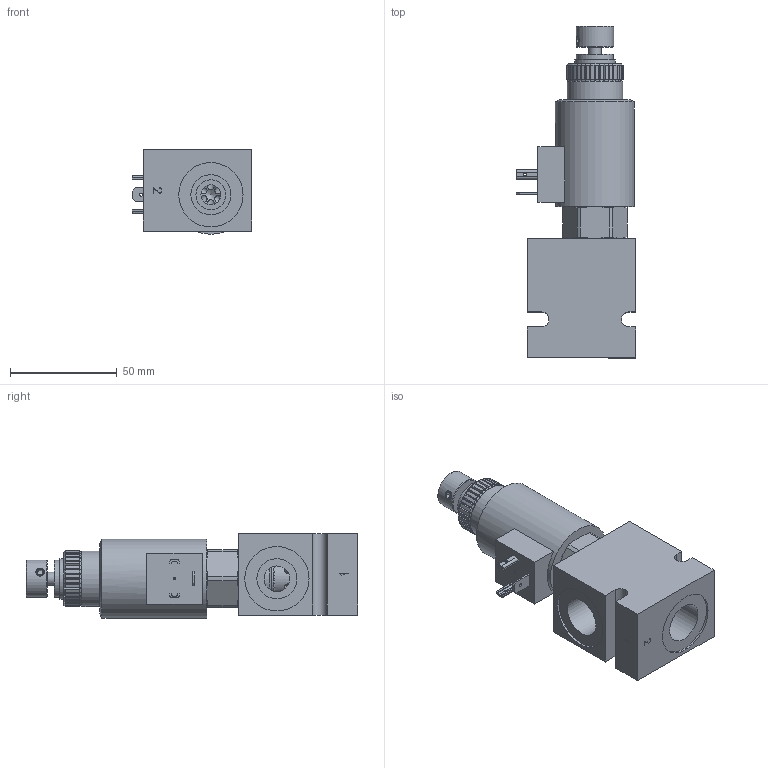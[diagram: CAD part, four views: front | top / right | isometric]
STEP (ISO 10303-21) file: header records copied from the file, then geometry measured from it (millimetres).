
FILE_DESCRIPTION( ( 'Unknown' ), '1' );
FILE_NAME( 'G:/Graphic Design/Graphic Design 2/Data Sheets/PROPORTIONAL CONTROLS/2_STEP/T-EE-P2G-0M-A_SM.stp', 'Unknown', ( 'Unknown' ), ( 'Unknown' ), 'PSStep 17.0.49', 'Unknown', ' ' );
FILE_SCHEMA( ( 'AUTOMOTIVE_DESIGN { 1 0 10303 214 1 1 1 1 }' ) );
Length unit declared in the file: millimetre
Products named in the file (12): T-60.0205.17_; T-60.0205.178_Main; PT-EL-HC-TerminalConnectors; Assem1; B-DDEC2; T-EEP2G0KA
Assembly tree (11 placements, depth 3):
  Assem1
    B-DDEC2
    T-EEP2G0KA
    T-EEP2G0KA
    T-EEP2G0KA
    T-EEP2G0KA
    T-60.0205.17_
      T-60.0205.178_Main
      PT-EL-HC-TerminalConnectors
      PT-EL-HC-TerminalConnectors
      PT-EL-HC-TerminalConnectors
      PT-EL-HC-TerminalConnectors
Bounding box: 55.92 x 155.6 x 39.6 mm (x, y, z)
Volume: 171727.6 mm3; surface area: 43374.9 mm2
Topology: 10 solids, 10 shells, 414 faces, 1056 edges, 675 vertices
Faces by surface type: plane 248, cylinder 104, cone 59, torus 3
Full cylindrical faces by diameter (mm): 0.2 x2, 0.5 x1, 1 x1, 1.5 x3, 2.5 x2, 3.5 x6, 3.85 x1, 4 x1, 5.3 x1, 6 x1, 7.5 x1, 9.35 x1, 12 x1, 12.9 x1, 13.245 x2, 14 x1, 15.83 x2, 15.9 x1, 15.938 x2, 17.043 x1, 17.3 x1, 17.5 x2, 18.8 x4, 19 x2, 19.05 x1, 19.7 x1, 20.262 x2, 22.225 x1, 26 x1, 26.8 x1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
Entity records: 16443 total; most frequent: CARTESIAN_POINT 3718, ORIENTED_EDGE 1872, DIRECTION 1819, EDGE_CURVE 936, AXIS2_PLACEMENT_3D 711, VERTEX_POINT 640, EDGE_LOOP 532, FACE_OUTER_BOUND 465
